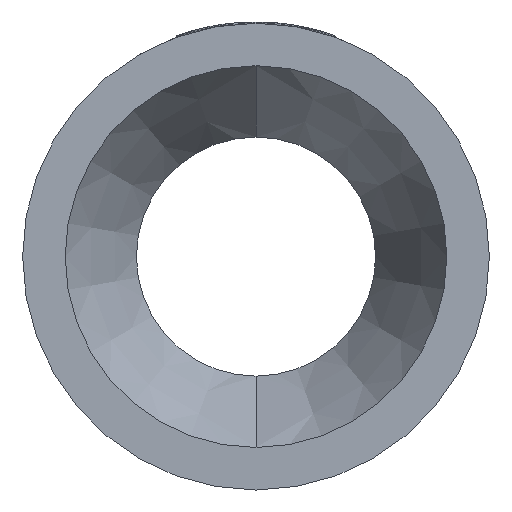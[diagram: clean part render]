
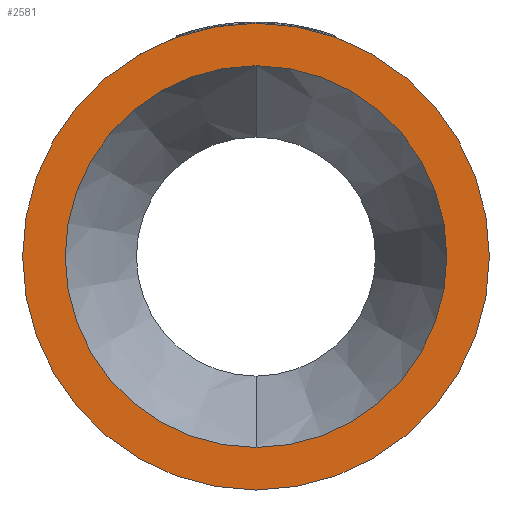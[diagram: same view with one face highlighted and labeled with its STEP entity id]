
A CAD part, left-side view. The second image highlights one B-rep face of the part: STEP entity #2581.
In plain terms, the highlighted planar face has unit normal (-1, 0, 0).
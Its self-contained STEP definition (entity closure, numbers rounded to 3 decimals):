
#67 = DIRECTION ( 'NONE',  ( 0., 0., 1. ) ) ;
#76 = DIRECTION ( 'NONE',  ( -1., 0., 0. ) ) ;
#85 = CARTESIAN_POINT ( 'NONE',  ( 0., 0., 0. ) ) ;
#317 = EDGE_LOOP ( 'NONE', ( #3506, #3517 ) ) ;
#422 = VERTEX_POINT ( 'NONE', #3276 ) ;
#460 = AXIS2_PLACEMENT_3D ( 'NONE', #1145, #1130, #1111 ) ;
#582 = CARTESIAN_POINT ( 'NONE',  ( 0., 0., 90. ) ) ;
#649 = VERTEX_POINT ( 'NONE', #1608 ) ;
#792 = VERTEX_POINT ( 'NONE', #1040 ) ;
#1040 = CARTESIAN_POINT ( 'NONE',  ( 0., 0., -90. ) ) ;
#1099 = EDGE_LOOP ( 'NONE', ( #2293, #2479 ) ) ;
#1111 = DIRECTION ( 'NONE',  ( 0., 0., 1. ) ) ;
#1130 = DIRECTION ( 'NONE',  ( -1., 0., 0. ) ) ;
#1145 = CARTESIAN_POINT ( 'NONE',  ( 0., 0., 0. ) ) ;
#1305 = VERTEX_POINT ( 'NONE', #582 ) ;
#1355 = CIRCLE ( 'NONE', #3385, 90. ) ;
#1608 = CARTESIAN_POINT ( 'NONE',  ( 0., 0., 73.6 ) ) ;
#1773 = DIRECTION ( 'NONE',  ( 0., 0., 1. ) ) ;
#1780 = DIRECTION ( 'NONE',  ( -1., 0., 0. ) ) ;
#2171 = DIRECTION ( 'NONE',  ( 0., 0., 1. ) ) ;
#2190 = DIRECTION ( 'NONE',  ( -1., 0., 0. ) ) ;
#2201 = CARTESIAN_POINT ( 'NONE',  ( 0., 0., 0. ) ) ;
#2256 = CIRCLE ( 'NONE', #460, 73.6 ) ;
#2293 = ORIENTED_EDGE ( 'NONE', *, *, #2870, .T. ) ;
#2297 = AXIS2_PLACEMENT_3D ( 'NONE', #3257, #3250, #3232 ) ;
#2455 = EDGE_CURVE ( 'NONE', #649, #422, #2256, .T. ) ;
#2479 = ORIENTED_EDGE ( 'NONE', *, *, #2690, .T. ) ;
#2581 = ADVANCED_FACE ( 'NONE', ( #2796, #2700 ), #3315, .F. ) ;
#2584 = CARTESIAN_POINT ( 'NONE',  ( 0., 0., 0. ) ) ;
#2690 = EDGE_CURVE ( 'NONE', #792, #1305, #2945, .T. ) ;
#2700 = FACE_OUTER_BOUND ( 'NONE', #1099, .T. ) ;
#2710 = CIRCLE ( 'NONE', #3157, 73.6 ) ;
#2796 = FACE_BOUND ( 'NONE', #317, .T. ) ;
#2870 = EDGE_CURVE ( 'NONE', #1305, #792, #1355, .T. ) ;
#2945 = CIRCLE ( 'NONE', #3491, 90. ) ;
#3088 = EDGE_CURVE ( 'NONE', #422, #649, #2710, .T. ) ;
#3157 = AXIS2_PLACEMENT_3D ( 'NONE', #85, #76, #67 ) ;
#3232 = DIRECTION ( 'NONE',  ( 0., 0., -1. ) ) ;
#3250 = DIRECTION ( 'NONE',  ( 1., 0., 0. ) ) ;
#3257 = CARTESIAN_POINT ( 'NONE',  ( 0., 73.6, 0. ) ) ;
#3276 = CARTESIAN_POINT ( 'NONE',  ( 0., 0., -73.6 ) ) ;
#3315 = PLANE ( 'NONE',  #2297 ) ;
#3385 = AXIS2_PLACEMENT_3D ( 'NONE', #2201, #2190, #2171 ) ;
#3491 = AXIS2_PLACEMENT_3D ( 'NONE', #2584, #1780, #1773 ) ;
#3506 = ORIENTED_EDGE ( 'NONE', *, *, #2455, .F. ) ;
#3517 = ORIENTED_EDGE ( 'NONE', *, *, #3088, .F. ) ;
